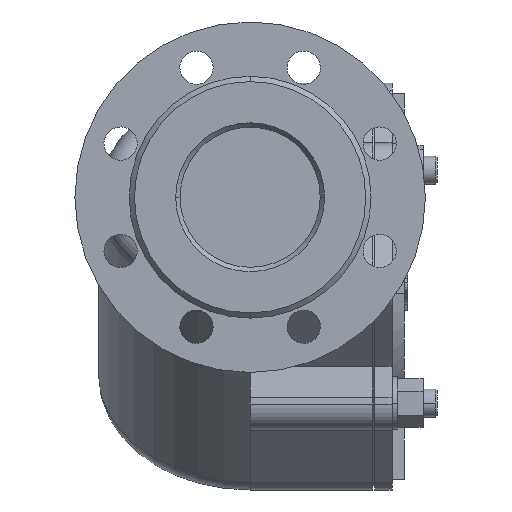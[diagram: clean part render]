
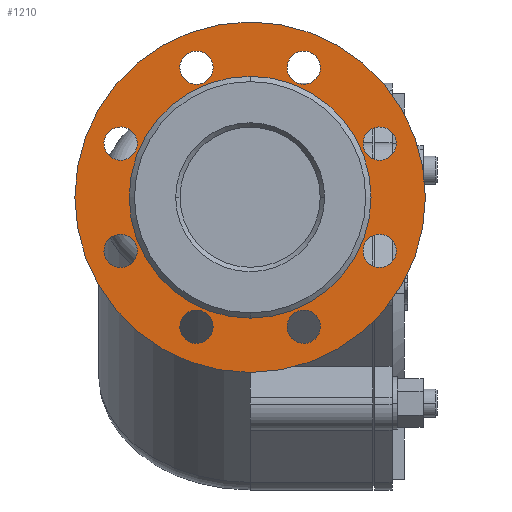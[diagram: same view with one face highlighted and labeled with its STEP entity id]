
A CAD part, left-side view. The second image highlights one B-rep face of the part: STEP entity #1210.
In plain terms, the highlighted planar face has unit normal (-1, 0, 0).
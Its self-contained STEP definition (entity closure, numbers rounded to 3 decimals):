
#1210=ADVANCED_FACE('',(#2355,#2356,#2357,#2358,#2359,#2360,#2361,#2362,#2363,#2364),#2365,.F.);
#2355=FACE_BOUND('',#3749,.T.);
#2356=FACE_BOUND('',#3750,.T.);
#2357=FACE_BOUND('',#3751,.T.);
#2358=FACE_BOUND('',#3752,.T.);
#2359=FACE_BOUND('',#3753,.T.);
#2360=FACE_BOUND('',#3754,.T.);
#2361=FACE_BOUND('',#3755,.T.);
#2362=FACE_BOUND('',#3756,.T.);
#2363=FACE_BOUND('',#3757,.T.);
#2364=FACE_OUTER_BOUND('',#3758,.T.);
#2365=PLANE('',#3759);
#3749=EDGE_LOOP('',(#5896,#5897));
#3750=EDGE_LOOP('',(#5898,#5899));
#3751=EDGE_LOOP('',(#5900,#5901));
#3752=EDGE_LOOP('',(#5902,#5903));
#3753=EDGE_LOOP('',(#5904,#5905));
#3754=EDGE_LOOP('',(#5906,#5907));
#3755=EDGE_LOOP('',(#5908,#5909));
#3756=EDGE_LOOP('',(#5910,#5911));
#3757=EDGE_LOOP('',(#5912,#5913));
#3758=EDGE_LOOP('',(#5914,#5915));
#3759=AXIS2_PLACEMENT_3D('',#5916,#5917,#5918);
#5896=ORIENTED_EDGE('',*,*,#8279,.T.);
#5897=ORIENTED_EDGE('',*,*,#8280,.T.);
#5898=ORIENTED_EDGE('',*,*,#8281,.T.);
#5899=ORIENTED_EDGE('',*,*,#7900,.T.);
#5900=ORIENTED_EDGE('',*,*,#7482,.T.);
#5901=ORIENTED_EDGE('',*,*,#7719,.T.);
#5902=ORIENTED_EDGE('',*,*,#8009,.T.);
#5903=ORIENTED_EDGE('',*,*,#8159,.T.);
#5904=ORIENTED_EDGE('',*,*,#8282,.T.);
#5905=ORIENTED_EDGE('',*,*,#8272,.T.);
#5906=ORIENTED_EDGE('',*,*,#8213,.T.);
#5907=ORIENTED_EDGE('',*,*,#8180,.T.);
#5908=ORIENTED_EDGE('',*,*,#8283,.T.);
#5909=ORIENTED_EDGE('',*,*,#7528,.T.);
#5910=ORIENTED_EDGE('',*,*,#8078,.T.);
#5911=ORIENTED_EDGE('',*,*,#8284,.T.);
#5912=ORIENTED_EDGE('',*,*,#8285,.T.);
#5913=ORIENTED_EDGE('',*,*,#8286,.T.);
#5914=ORIENTED_EDGE('',*,*,#8195,.F.);
#5915=ORIENTED_EDGE('',*,*,#8242,.F.);
#5916=CARTESIAN_POINT('',(-307.0,0.0,0.));
#5917=DIRECTION('',(1.0,0.0,0.));
#5918=DIRECTION('',(0.,0.0,-1.0));
#7482=EDGE_CURVE('',#8732,#8736,#8738,.T.);
#7528=EDGE_CURVE('',#8818,#8816,#8819,.T.);
#7719=EDGE_CURVE('',#8736,#8732,#9145,.T.);
#7900=EDGE_CURVE('',#9431,#9429,#9432,.T.);
#8009=EDGE_CURVE('',#9592,#9596,#9598,.T.);
#8078=EDGE_CURVE('',#9703,#9701,#9704,.T.);
#8159=EDGE_CURVE('',#9596,#9592,#9821,.T.);
#8180=EDGE_CURVE('',#9854,#9852,#9855,.T.);
#8195=EDGE_CURVE('',#9876,#9879,#9880,.T.);
#8213=EDGE_CURVE('',#9852,#9854,#9904,.T.);
#8242=EDGE_CURVE('',#9879,#9876,#9942,.T.);
#8272=EDGE_CURVE('',#9985,#9983,#9986,.T.);
#8279=EDGE_CURVE('',#9995,#9996,#9997,.T.);
#8280=EDGE_CURVE('',#9996,#9995,#9998,.T.);
#8281=EDGE_CURVE('',#9429,#9431,#9999,.T.);
#8282=EDGE_CURVE('',#9983,#9985,#10000,.T.);
#8283=EDGE_CURVE('',#8816,#8818,#10001,.T.);
#8284=EDGE_CURVE('',#9701,#9703,#10002,.T.);
#8285=EDGE_CURVE('',#10003,#10004,#10005,.T.);
#8286=EDGE_CURVE('',#10004,#10003,#10006,.T.);
#8732=VERTEX_POINT('',#10543);
#8736=VERTEX_POINT('',#10548);
#8738=CIRCLE('',#10551,9.5);
#8816=VERTEX_POINT('',#10646);
#8818=VERTEX_POINT('',#10649);
#8819=CIRCLE('',#10650,9.5);
#9145=CIRCLE('',#11067,9.5);
#9429=VERTEX_POINT('',#11446);
#9431=VERTEX_POINT('',#11449);
#9432=CIRCLE('',#11450,9.5);
#9592=VERTEX_POINT('',#11698);
#9596=VERTEX_POINT('',#11703);
#9598=CIRCLE('',#11706,9.5);
#9701=VERTEX_POINT('',#11871);
#9703=VERTEX_POINT('',#11874);
#9704=CIRCLE('',#11875,40.0);
#9821=CIRCLE('',#12076,9.5);
#9852=VERTEX_POINT('',#12118);
#9854=VERTEX_POINT('',#12121);
#9855=CIRCLE('',#12122,9.5);
#9876=VERTEX_POINT('',#12151);
#9879=VERTEX_POINT('',#12155);
#9880=CIRCLE('',#12156,100.0);
#9904=CIRCLE('',#12188,9.5);
#9942=CIRCLE('',#12248,100.0);
#9983=VERTEX_POINT('',#12299);
#9985=VERTEX_POINT('',#12302);
#9986=CIRCLE('',#12303,9.5);
#9995=VERTEX_POINT('',#12315);
#9996=VERTEX_POINT('',#12316);
#9997=CIRCLE('',#12317,9.5);
#9998=CIRCLE('',#12318,9.5);
#9999=CIRCLE('',#12319,9.5);
#10000=CIRCLE('',#12320,9.5);
#10001=CIRCLE('',#12321,9.5);
#10002=CIRCLE('',#12322,40.0);
#10003=VERTEX_POINT('',#12323);
#10004=VERTEX_POINT('',#12324);
#10005=CIRCLE('',#12325,9.5);
#10006=CIRCLE('',#12326,9.5);
#10543=CARTESIAN_POINT('',(-307.0,65.134,-26.979));
#10548=CARTESIAN_POINT('',(-307.0,82.687,-34.25));
#10551=AXIS2_PLACEMENT_3D('',#13007,#13008,#13009);
#10646=CARTESIAN_POINT('',(-307.0,-65.134,26.979));
#10649=CARTESIAN_POINT('',(-307.0,-82.687,34.25));
#10650=AXIS2_PLACEMENT_3D('',#13076,#13077,#13078);
#11067=AXIS2_PLACEMENT_3D('',#13359,#13360,#13361);
#11446=CARTESIAN_POINT('',(-307.0,65.134,26.979));
#11449=CARTESIAN_POINT('',(-307.0,82.687,34.25));
#11450=AXIS2_PLACEMENT_3D('',#13587,#13588,#13589);
#11698=CARTESIAN_POINT('',(-307.0,26.979,-65.134));
#11703=CARTESIAN_POINT('',(-307.0,34.25,-82.687));
#11706=AXIS2_PLACEMENT_3D('',#13724,#13725,#13726);
#11871=CARTESIAN_POINT('',(-307.0,-40.0,0.));
#11874=CARTESIAN_POINT('',(-307.0,40.0,0.));
#11875=AXIS2_PLACEMENT_3D('',#13808,#13809,#13810);
#12076=AXIS2_PLACEMENT_3D('',#13903,#13904,#13905);
#12118=CARTESIAN_POINT('',(-307.0,-65.134,-26.979));
#12121=CARTESIAN_POINT('',(-307.0,-82.687,-34.25));
#12122=AXIS2_PLACEMENT_3D('',#13927,#13928,#13929);
#12151=CARTESIAN_POINT('',(-307.0,0.0,-100.0));
#12155=CARTESIAN_POINT('',(-307.0,0.,100.0));
#12156=AXIS2_PLACEMENT_3D('',#13942,#13943,#13944);
#12188=AXIS2_PLACEMENT_3D('',#13965,#13966,#13967);
#12248=AXIS2_PLACEMENT_3D('',#13993,#13994,#13995);
#12299=CARTESIAN_POINT('',(-307.0,-26.979,-65.134));
#12302=CARTESIAN_POINT('',(-307.0,-34.25,-82.687));
#12303=AXIS2_PLACEMENT_3D('',#14028,#14029,#14030);
#12315=CARTESIAN_POINT('',(-307.0,26.979,65.134));
#12316=CARTESIAN_POINT('',(-307.0,34.25,82.687));
#12317=AXIS2_PLACEMENT_3D('',#14037,#14038,#14039);
#12318=AXIS2_PLACEMENT_3D('',#14040,#14041,#14042);
#12319=AXIS2_PLACEMENT_3D('',#14043,#14044,#14045);
#12320=AXIS2_PLACEMENT_3D('',#14046,#14047,#14048);
#12321=AXIS2_PLACEMENT_3D('',#14049,#14050,#14051);
#12322=AXIS2_PLACEMENT_3D('',#14052,#14053,#14054);
#12323=CARTESIAN_POINT('',(-307.0,-26.979,65.134));
#12324=CARTESIAN_POINT('',(-307.0,-34.25,82.687));
#12325=AXIS2_PLACEMENT_3D('',#14055,#14056,#14057);
#12326=AXIS2_PLACEMENT_3D('',#14058,#14059,#14060);
#13007=CARTESIAN_POINT('',(-307.0,73.91,-30.615));
#13008=DIRECTION('',(1.0,0.0,0.));
#13009=DIRECTION('',(0.,-0.924,0.383));
#13076=CARTESIAN_POINT('',(-307.0,-73.91,30.615));
#13077=DIRECTION('',(1.0,0.0,0.));
#13078=DIRECTION('',(0.,0.924,-0.383));
#13359=CARTESIAN_POINT('',(-307.0,73.91,-30.615));
#13360=DIRECTION('',(1.0,0.0,0.));
#13361=DIRECTION('',(0.,-0.924,0.383));
#13587=CARTESIAN_POINT('',(-307.0,73.91,30.615));
#13588=DIRECTION('',(1.0,0.0,0.));
#13589=DIRECTION('',(0.,-0.924,-0.383));
#13724=CARTESIAN_POINT('',(-307.0,30.615,-73.91));
#13725=DIRECTION('',(1.0,0.0,0.));
#13726=DIRECTION('',(0.,-0.383,0.924));
#13808=CARTESIAN_POINT('',(-307.0,0.,0.0));
#13809=DIRECTION('',(1.0,0.,0.));
#13810=DIRECTION('',(0.0,-1.0,0.));
#13903=CARTESIAN_POINT('',(-307.0,30.615,-73.91));
#13904=DIRECTION('',(1.0,0.0,0.));
#13905=DIRECTION('',(0.,-0.383,0.924));
#13927=CARTESIAN_POINT('',(-307.0,-73.91,-30.615));
#13928=DIRECTION('',(1.0,0.0,0.));
#13929=DIRECTION('',(0.,0.924,0.383));
#13942=CARTESIAN_POINT('',(-307.0,0.0,0.));
#13943=DIRECTION('',(1.0,0.0,0.));
#13944=DIRECTION('',(0.,0.0,-1.0));
#13965=CARTESIAN_POINT('',(-307.0,-73.91,-30.615));
#13966=DIRECTION('',(1.0,0.0,0.));
#13967=DIRECTION('',(0.,0.924,0.383));
#13993=CARTESIAN_POINT('',(-307.0,0.0,0.));
#13994=DIRECTION('',(1.0,0.0,0.));
#13995=DIRECTION('',(0.,0.0,-1.0));
#14028=CARTESIAN_POINT('',(-307.0,-30.615,-73.91));
#14029=DIRECTION('',(1.0,0.0,0.));
#14030=DIRECTION('',(0.,0.383,0.924));
#14037=CARTESIAN_POINT('',(-307.0,30.615,73.91));
#14038=DIRECTION('',(1.0,0.0,0.));
#14039=DIRECTION('',(0.,-0.383,-0.924));
#14040=CARTESIAN_POINT('',(-307.0,30.615,73.91));
#14041=DIRECTION('',(1.0,0.0,0.));
#14042=DIRECTION('',(0.,-0.383,-0.924));
#14043=CARTESIAN_POINT('',(-307.0,73.91,30.615));
#14044=DIRECTION('',(1.0,0.0,0.));
#14045=DIRECTION('',(0.,-0.924,-0.383));
#14046=CARTESIAN_POINT('',(-307.0,-30.615,-73.91));
#14047=DIRECTION('',(1.0,0.0,0.));
#14048=DIRECTION('',(0.,0.383,0.924));
#14049=CARTESIAN_POINT('',(-307.0,-73.91,30.615));
#14050=DIRECTION('',(1.0,0.0,0.));
#14051=DIRECTION('',(0.,0.924,-0.383));
#14052=CARTESIAN_POINT('',(-307.0,0.,0.0));
#14053=DIRECTION('',(1.0,0.,0.));
#14054=DIRECTION('',(0.0,-1.0,0.));
#14055=CARTESIAN_POINT('',(-307.0,-30.615,73.91));
#14056=DIRECTION('',(1.0,0.0,0.));
#14057=DIRECTION('',(0.,0.383,-0.924));
#14058=CARTESIAN_POINT('',(-307.0,-30.615,73.91));
#14059=DIRECTION('',(1.0,0.0,0.));
#14060=DIRECTION('',(0.,0.383,-0.924));
